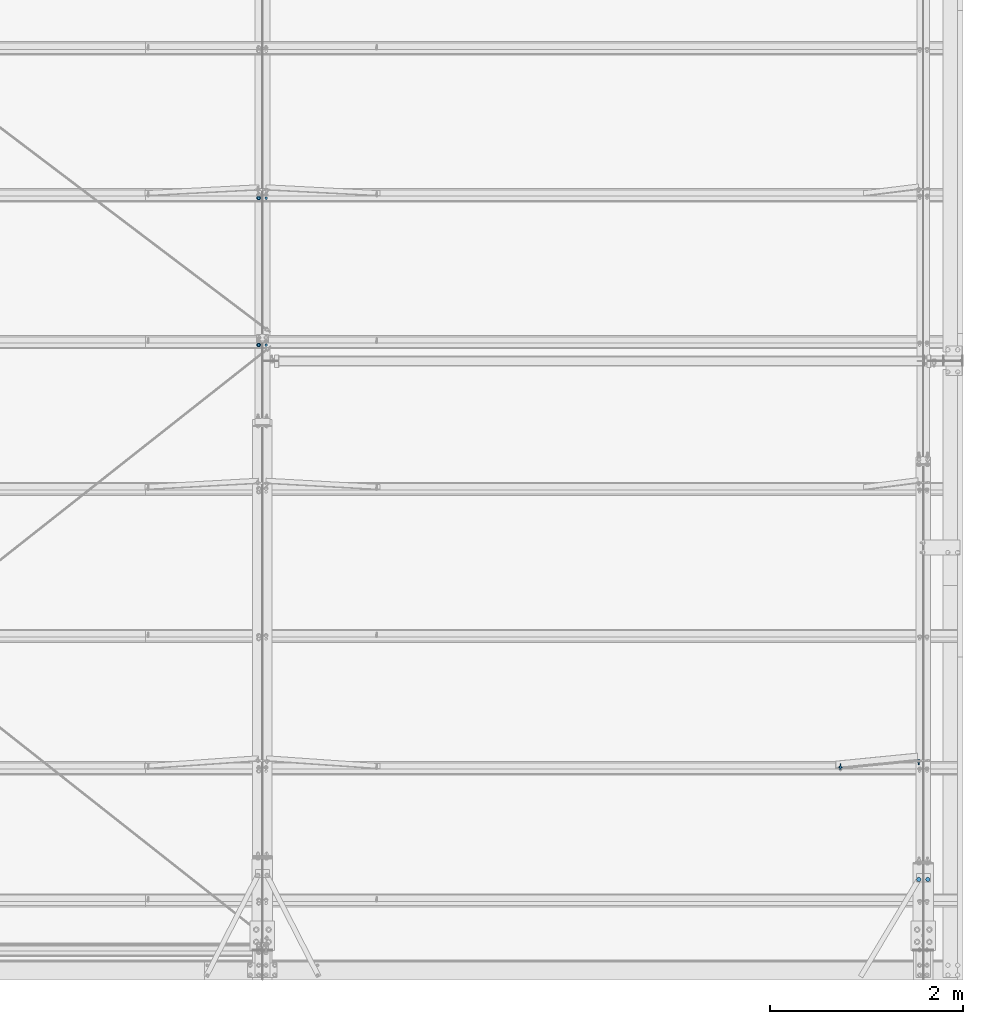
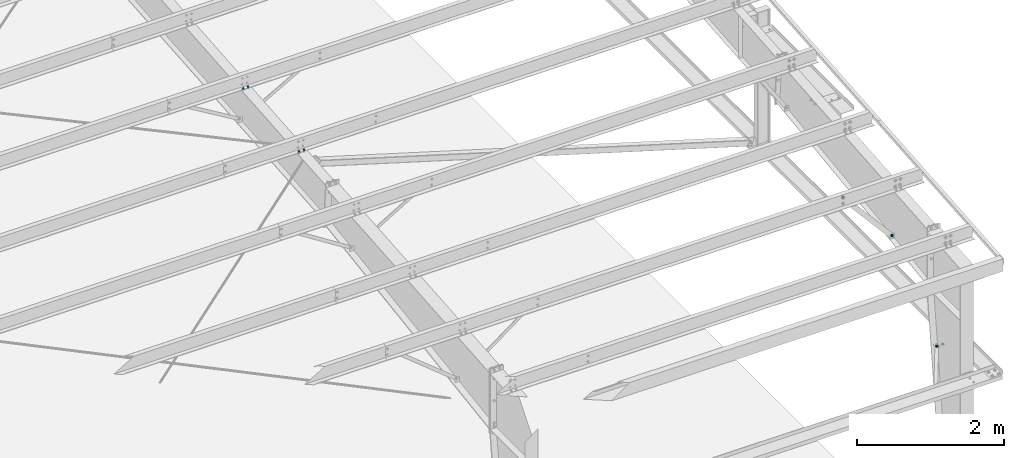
# One storey, part 168 of 185: 8 mechanical fasteners, 4 elements without a shape of their own.
"""IFC2X3 building model written with IfcOpenShell, lengths in millimetres."""

import ifcopenshell
import ifcopenshell.guid

model = None  # the IFC model being written
_history = None  # IfcOwnerHistory: only IFC2X3 demands one
_inside = {}  # id of a spatial element -> (the spatial element, [elements in it])
_under = {}  # id of a project, library or spatial element -> (it, [spatial elements below it])
_declared = {}  # id of a project -> (the project, [libraries it declares])
_typed = {}  # id of a type object -> (the type object, [elements of that type])
_made_of = {}  # id of a material, layer set ... -> (it, [elements and type objects made of it])


def new_model(schema):
    """Start an empty IFC model of exactly this schema.

    Asked for "IFC4X3", IfcOpenShell would pick the latest addendum, in which some entities
    have other attributes; the version numbers below select the first issue.
    IFC2X3 requires an IfcOwnerHistory on every rooted entity: one is made here for all.
    """
    global model, _history
    if schema == "IFC4X3":
        model = ifcopenshell.file(schema_version=(4, 3, 0, 0))
    else:
        model = ifcopenshell.file(schema=schema)
    _inside.clear()
    _under.clear()
    _declared.clear()
    _typed.clear()
    _made_of.clear()
    _history = None
    if model.schema == "IFC2X3":
        org = make("IfcOrganization", Name="unknown")
        user = make(
            "IfcPersonAndOrganization",
            ThePerson=make("IfcPerson", FamilyName="unknown"),
            TheOrganization=org,
        )
        app = make(
            "IfcApplication",
            ApplicationDeveloper=org,
            Version="unknown",
            ApplicationFullName="unknown",
            ApplicationIdentifier="unknown",
        )
        _history = make(
            "IfcOwnerHistory",
            OwningUser=user,
            OwningApplication=app,
            ChangeAction="ADDED",
            CreationDate=0,
        )
    return model


def make(cls, **values):
    """One entity of the class cls with the attributes given. An attribute that is None is left unset."""
    return model.create_entity(
        cls, **{name: value for name, value in values.items() if value is not None}
    )


def rooted(cls, **values):
    """An entity with a GlobalId (a new one), such as an element, a storey or a relation."""
    return make(cls, GlobalId=ifcopenshell.guid.new(), OwnerHistory=_history, **values)


def si_unit(unit_type, name, prefix=None):
    """IfcSIUnit, for example si_unit("LENGTHUNIT", "METRE", prefix="MILLI")."""
    return make("IfcSIUnit", UnitType=unit_type, Prefix=prefix, Name=name)


def assignment(units):
    """IfcUnitAssignment: the units of a project."""
    return None if units is None else make("IfcUnitAssignment", Units=units)


def point(xyz):
    """IfcCartesianPoint."""
    return None if xyz is None else make("IfcCartesianPoint", Coordinates=xyz)


def direction(xyz):
    """IfcDirection."""
    return None if xyz is None else make("IfcDirection", DirectionRatios=xyz)


def frame(location, z_axis=None, x_axis=None):
    """IfcAxis2Placement3D, a coordinate frame: its origin and axes. An axis left out is left unset."""
    return make(
        "IfcAxis2Placement3D",
        Location=point(location),
        Axis=direction(z_axis),
        RefDirection=direction(x_axis),
    )


def frame_2d(location, x_axis=None):
    """IfcAxis2Placement2D, a coordinate frame in the plane: its origin and x axis."""
    return make(
        "IfcAxis2Placement2D", Location=point(location), RefDirection=direction(x_axis)
    )


def origin_with_axes():
    """The frame at (0, 0, 0) with the z axis (0, 0, 1) and the x axis (1, 0, 0) written out."""
    return frame((0.0, 0.0, 0.0), z_axis=(0.0, 0.0, 1.0), x_axis=(1.0, 0.0, 0.0))


def origin_2d_with_axis():
    """The frame at (0, 0) in the plane with the x axis (1, 0) written out."""
    return frame_2d((0.0, 0.0), x_axis=(1.0, 0.0))


def place(relative_to, where):
    """IfcLocalPlacement: puts the frame where relative to a parent placement (None: the world)."""
    return make(
        "IfcLocalPlacement", PlacementRelTo=relative_to, RelativePlacement=where
    )


def context(
    kind, dimensions, precision=None, world=None, true_north=None, identifier=None
):
    """IfcGeometricRepresentationContext, for example the 3D "Model" context."""
    return make(
        "IfcGeometricRepresentationContext",
        ContextIdentifier=identifier,
        ContextType=kind,
        CoordinateSpaceDimension=dimensions,
        Precision=precision,
        WorldCoordinateSystem=world,
        TrueNorth=true_north,
    )


def subcontext(parent, identifier, kind, view, scale=None):
    """IfcGeometricRepresentationSubContext, for example "Body" below "Model"."""
    return make(
        "IfcGeometricRepresentationSubContext",
        ContextIdentifier=identifier,
        ContextType=kind,
        ParentContext=parent,
        TargetScale=scale,
        TargetView=view,
    )


def project(units=None, contexts=None):
    """IfcProject with its units and contexts."""
    return rooted(
        "IfcProject",
        Name="project",
        RepresentationContexts=contexts,
        UnitsInContext=assignment(units),
    )


def spatial(cls, under=None, at=None, **own):
    """A site, building, storey or space (cls), placed at a placement, below another one or the project."""
    s = rooted(cls, ObjectPlacement=at, **own)
    if under is not None:
        _under.setdefault(under.id(), (under, []))[1].append(s)
    return s


def polyline(points):
    """IfcPolyline through the points."""
    return make("IfcPolyline", Points=[point(p) for p in points])


def profile(cls, at=None, kind="AREA", **sizes):
    """A parametric profile (cls). Its sizes go by their IFC names, for example OverallWidth=200.0."""
    return make(cls, ProfileType=kind, Position=at, **sizes)


def circle(**sizes):
    """IfcCircleProfileDef."""
    return profile("IfcCircleProfileDef", **sizes)


def outline(outer, holes=None, kind="AREA"):
    """IfcArbitraryClosedProfileDef: a profile drawn as a closed curve; with holes, ...WithVoids."""
    if holes is None:
        return make("IfcArbitraryClosedProfileDef", ProfileType=kind, OuterCurve=outer)
    return make(
        "IfcArbitraryProfileDefWithVoids",
        ProfileType=kind,
        OuterCurve=outer,
        InnerCurves=holes,
    )


def extrude(swept, where, along, depth):
    """IfcExtrudedAreaSolid: the profile swept, set in the frame where, extruded along a direction by depth."""
    return make(
        "IfcExtrudedAreaSolid",
        SweptArea=swept,
        Position=where,
        ExtrudedDirection=direction(along),
        Depth=depth,
    )


def shape(context_of_items, identifier, shape_type, items):
    """IfcShapeRepresentation: the items that make up one representation, for example the "Body"."""
    return make(
        "IfcShapeRepresentation",
        ContextOfItems=context_of_items,
        RepresentationIdentifier=identifier,
        RepresentationType=shape_type,
        Items=items,
    )


def source(mapping_origin, context_of_items, identifier, shape_type, items):
    """IfcRepresentationMap: a shape defined once, which mapped items show again and again."""
    return make(
        "IfcRepresentationMap",
        MappingOrigin=mapping_origin,
        MappedRepresentation=shape(context_of_items, identifier, shape_type, items),
    )


def transform(
    local_origin,
    x_axis=None,
    y_axis=None,
    z_axis=None,
    scale=None,
    scale2=None,
    scale3=None,
    uniform=True,
):
    """IfcCartesianTransformationOperator3D, or its non-uniform kind. x_axis, y_axis, z_axis: its Axis1, 2, 3."""
    if uniform:
        return make(
            "IfcCartesianTransformationOperator3D",
            Axis1=direction(x_axis),
            Axis2=direction(y_axis),
            LocalOrigin=point(local_origin),
            Scale=scale,
            Axis3=direction(z_axis),
        )
    return make(
        "IfcCartesianTransformationOperator3DnonUniform",
        Axis1=direction(x_axis),
        Axis2=direction(y_axis),
        LocalOrigin=point(local_origin),
        Scale=scale,
        Axis3=direction(z_axis),
        Scale2=scale2,
        Scale3=scale3,
    )


def mapped(mapping_source, mapping_target):
    """IfcMappedItem: shows the shape of a source again, moved by a transform."""
    return make(
        "IfcMappedItem", MappingSource=mapping_source, MappingTarget=mapping_target
    )


def material(Name=None, Category=None):
    """IfcMaterial."""
    return make("IfcMaterial", Name=Name, Category=Category)


def made_of(thing, what):
    """Note that an element or type object is made of a material, layer set ...; save() writes the relation."""
    if what is not None:
        _made_of.setdefault(what.id(), (what, []))[1].append(thing)
    return thing


def type_object(cls, material=None, **own):
    """A type object (cls), such as IfcWallType, which elements share."""
    return made_of(rooted(cls, **own), material)


def element(
    cls,
    number,
    at=None,
    inside=None,
    cuts=None,
    type_object=None,
    material=None,
    context=None,
    identifier="Body",
    shape_type=None,
    held_by="IfcProductDefinitionShape",
    body=None,
    shapes=None,
    **own,
):
    """One element of the class cls, such as IfcWall. Its Tag is "e" and its number.

    at: its placement. inside: the storey or other place that contains it. cuts: it is an
    opening in that element (IfcRelVoidsElement). A single representation is given by context,
    identifier, shape_type and body (its items); several are given by shapes. held_by: the class
    of the entity that holds the representations. save() writes the other relations.
    """
    e = rooted(cls, Tag="e%d" % number, ObjectPlacement=at, **own)
    if body is not None:
        shapes = [shape(context, identifier, shape_type, body)]
    if shapes is not None:
        e.Representation = make(held_by, Representations=shapes)
    if inside is not None:
        _inside.setdefault(inside.id(), (inside, []))[1].append(e)
    if cuts is not None:
        rooted(
            "IfcRelVoidsElement", RelatingBuildingElement=cuts, RelatedOpeningElement=e
        )
    if type_object is not None:
        _typed.setdefault(type_object.id(), (type_object, []))[1].append(e)
    return made_of(e, material)


def aggregate(whole, parts):
    """IfcRelAggregates: a whole, such as a stair, and the parts it consists of."""
    return rooted("IfcRelAggregates", RelatingObject=whole, RelatedObjects=parts)


def save(model, path):
    """Write the relations noted so far, then the file.

    IfcRelAggregates (storeys below a building ...), IfcRelContainedInSpatialStructure (elements
    in a storey), IfcRelDefinesByType, IfcRelAssociatesMaterial and IfcRelDeclares: one each for
    every whole, place, type object, material and project.
    """
    for whole, parts in _under.values():
        aggregate(whole, parts)
    for where, things in _inside.values():
        rooted(
            "IfcRelContainedInSpatialStructure",
            RelatedElements=things,
            RelatingStructure=where,
        )
    for kind, things in _typed.values():
        rooted("IfcRelDefinesByType", RelatedObjects=things, RelatingType=kind)
    for what, things in _made_of.values():
        rooted("IfcRelAssociatesMaterial", RelatedObjects=things, RelatingMaterial=what)
    for by, libraries in _declared.values():
        rooted("IfcRelDeclares", RelatingContext=by, RelatedDefinitions=libraries)
    model.write(path)


model = new_model("IFC2X3")

# Units and contexts
model_context = context("Model", 3, precision=1e-05, world=origin_with_axes())
body_context = subcontext(model_context, "Body", "Model", "MODEL_VIEW")
ifc_project = project(units=[si_unit("LENGTHUNIT", "METRE", prefix="MILLI"), si_unit("AREAUNIT", "SQUARE_METRE"), si_unit("VOLUMEUNIT", "CUBIC_METRE"), si_unit("MASSUNIT", "GRAM", prefix="KILO"), si_unit("TIMEUNIT", "SECOND"), si_unit("PLANEANGLEUNIT", "RADIAN"), si_unit("SOLIDANGLEUNIT", "STERADIAN"), si_unit("THERMODYNAMICTEMPERATUREUNIT", "DEGREE_CELSIUS"), si_unit("LUMINOUSINTENSITYUNIT", "LUMEN")], contexts=[model_context])

# Site, building, storey
site_placement = place(None, origin_with_axes())
site = spatial("IfcSite", under=ifc_project, at=site_placement, Name="Undefined", CompositionType="ELEMENT")
building_placement = place(site_placement, origin_with_axes())
building = spatial("IfcBuilding", under=site, at=building_placement, Name="Undefined", CompositionType="ELEMENT")
storey_placement = place(building_placement, origin_with_axes())
storey = spatial("IfcBuildingStorey", under=building, at=storey_placement, Name="Undefined", CompositionType="ELEMENT", Elevation=0.0)

# Assembly, mechanical fastener
assembly_1_placement = place(storey_placement, origin_with_axes())
assembly_1 = element("IfcElementAssembly", 1, at=assembly_1_placement, inside=storey, Name="Steel Assembly", AssemblyPlace="NOTDEFINED", PredefinedType="RIGID_FRAME")
ifc_material = material(Name="Undefined")
discrete_accessory_type = type_object("IfcDiscreteAccessoryType", Name="Bolt assembly")
shared_shape_1 = source(origin_with_axes(), body_context, "Body", "SweptSolid", [
    extrude(circle(Radius=7.14374971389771, at=origin_2d_with_axis()), frame((0.0, 0.0, 0.0), z_axis=(0.0, 1.0, 0.0), x_axis=(1.0, 0.0, 0.0)), (0.0, 0.0, 1.0), 6.4),
    extrude(outline(polyline([(12.8316099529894, 0.0), (6.4158049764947, 11.1125001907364), (-6.4158049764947, 11.1125001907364), (-12.8316099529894, 0.0), (-6.4158049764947, -11.1125001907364), (6.4158049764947, -11.1125001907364), (12.8316099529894, 0.0)])), frame((0.0, -7.93749389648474, 0.0), z_axis=(0.0, 1.0, 0.0), x_axis=(1.0, 0.0, 0.0)), (0.0, 0.0, 1.0), 7.9),
    extrude(circle(Radius=6.34999990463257, at=origin_2d_with_axis()), frame((0.0, 0.0, 0.0), z_axis=(0.0, 1.0, 0.0), x_axis=(1.0, 0.0, 0.0)), (0.0, 0.0, 1.0), 50.8),
    extrude(circle(Radius=22.2250003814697, at=origin_2d_with_axis()), frame((0.0, 6.35000000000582, 0.0), z_axis=(0.0, 1.0, 0.0), x_axis=(1.0, 0.0, 0.0)), (0.0, 0.0, 1.0), 7.9),
    extrude(outline(polyline([(12.8316099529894, 0.0), (6.4158049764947, 11.1125001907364), (-6.4158049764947, 11.1125001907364), (-12.8316099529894, 0.0), (-6.4158049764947, -11.1125001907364), (6.4158049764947, -11.1125001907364), (12.8316099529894, 0.0)])), frame((0.0, 14.2875000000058, 0.0), z_axis=(0.0, 1.0, 0.0), x_axis=(1.0, 0.0, 0.0)), (0.0, 0.0, 1.0), 12.3),
])
mechanical_fastener_1_placement = place(assembly_1_placement, frame((43694.89, 2185.72394138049, 6227.16757842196), z_axis=(0.764786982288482, -0.0535048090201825, 0.64205771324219), x_axis=(0.644283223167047, 0.0635121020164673, -0.762145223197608)))
mechanical_fastener_1 = element("IfcMechanicalFastener", 2, at=mechanical_fastener_1_placement, type_object=discrete_accessory_type, material=ifc_material, Name="Bolt assembly", NominalDiameter=12.6999998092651, NominalLength=50.7999992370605, context=body_context, shape_type="MappedRepresentation", body=[
    mapped(shared_shape_1, transform((0.0, 0.0, 0.0))),
])

# Assembly, mechanical fasteners
assembly_2_placement = place(storey_placement, origin_with_axes())
assembly_2 = element("IfcElementAssembly", 3, at=assembly_2_placement, inside=storey, Name="Steel Assembly", AssemblyPlace="NOTDEFINED", PredefinedType="RIGID_FRAME")
shared_shape_2 = source(origin_with_axes(), body_context, "Body", "SweptSolid", [
    extrude(circle(Radius=7.14374971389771, at=origin_2d_with_axis()), frame((0.0, 0.0, 0.0), z_axis=(0.0, 1.0, 0.0), x_axis=(1.0, 0.0, 0.0)), (0.0, 0.0, 1.0), 3.5),
    extrude(circle(Radius=22.2250003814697, at=origin_2d_with_axis()), frame((0.0, 3.41629999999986, 0.0), z_axis=(0.0, 1.0, 0.0), x_axis=(1.0, 0.0, 0.0)), (0.0, 0.0, 1.0), 7.9),
    extrude(outline(polyline([(12.8316099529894, 0.0), (6.4158049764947, 11.1125001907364), (-6.4158049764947, 11.1125001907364), (-12.8316099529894, 0.0), (-6.4158049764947, -11.1125001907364), (6.4158049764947, -11.1125001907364), (12.8316099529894, 0.0)])), frame((0.0, 11.3537999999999, 0.0), z_axis=(0.0, 1.0, 0.0), x_axis=(1.0, 0.0, 0.0)), (0.0, 0.0, 1.0), 12.3),
])
mechanical_fastener_2_placement = place(assembly_2_placement, frame((44598.43125, 1040.14379748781, 4165.23696424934), z_axis=(0.0, 1.0, 0.0), x_axis=(-1.0, 0.0, 0.0)))
mechanical_fastener_2 = element("IfcMechanicalFastener", 4, at=mechanical_fastener_2_placement, type_object=discrete_accessory_type, material=ifc_material, Name="Bolt assembly", NominalDiameter=12.6999998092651, NominalLength=50.7999992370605, context=body_context, shape_type="MappedRepresentation", body=[
    mapped(shared_shape_2, transform((0.0, 0.0, 0.0))),
])
shared_shape_3 = source(origin_with_axes(), body_context, "Body", "SweptSolid", [
    extrude(circle(Radius=7.14374971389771, at=origin_2d_with_axis()), frame((0.0, -1.4900000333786, 0.0), z_axis=(0.0, 1.0, 0.0), x_axis=(1.0, 0.0, 0.0)), (0.0, 0.0, 1.0), 1.6),
    extrude(circle(Radius=7.14374971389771, at=origin_2d_with_axis()), frame((0.0, 1.48749999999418, 0.0), z_axis=(0.0, 1.0, 0.0), x_axis=(1.0, 0.0, 0.0)), (0.0, 0.0, 1.0), 3.5),
    extrude(outline(polyline([(10.9985221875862, 0.0), (5.4992610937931, 9.52499961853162), (-5.4992610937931, 9.52499961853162), (-10.9985221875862, 0.0), (-5.4992610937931, -9.52499961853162), (5.4992610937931, -9.52499961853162), (10.9985221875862, 0.0)])), frame((0.0, -15.0837496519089, 0.0), z_axis=(0.0, 1.0, 0.0), x_axis=(1.0, 0.0, 0.0)), (0.0, 0.0, 1.0), 9.5),
    extrude(circle(Radius=6.34999990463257, at=origin_2d_with_axis()), frame((0.0, -5.5587500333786, 0.0), z_axis=(0.0, 1.0, 0.0), x_axis=(1.0, 0.0, 0.0)), (0.0, 0.0, 1.0), 38.1),
    extrude(circle(Radius=13.4937496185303, at=origin_2d_with_axis()), frame((0.0, -5.5587500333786, 0.0), z_axis=(0.0, 1.0, 0.0), x_axis=(1.0, 0.0, 0.0)), (0.0, 0.0, 1.0), 4.0),
    extrude(circle(Radius=22.2250003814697, at=origin_2d_with_axis()), frame((0.0, 5.00379999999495, 0.0), z_axis=(0.0, 1.0, 0.0), x_axis=(1.0, 0.0, 0.0)), (0.0, 0.0, 1.0), 7.9),
    extrude(outline(polyline([(12.8316099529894, 0.0), (6.4158049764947, 11.1125001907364), (-6.4158049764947, 11.1125001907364), (-12.8316099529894, 0.0), (-6.4158049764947, -11.1125001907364), (6.4158049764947, -11.1125001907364), (12.8316099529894, 0.0)])), frame((0.0, 12.941299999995, 0.0), z_axis=(0.0, 1.0, 0.0), x_axis=(1.0, 0.0, 0.0)), (0.0, 0.0, 1.0), 12.3),
])
mechanical_fastener_3_placement = place(assembly_2_placement, frame((44504.76875, 1040.14379748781, 4163.64946424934), z_axis=(-0.858185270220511, 0.513340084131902, 0.0), x_axis=(-0.513340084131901, -0.858185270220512, 0.0)))
mechanical_fastener_3 = element("IfcMechanicalFastener", 5, at=mechanical_fastener_3_placement, type_object=discrete_accessory_type, material=ifc_material, Name="Bolt assembly", NominalDiameter=12.6999998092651, NominalLength=38.0999984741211, context=body_context, shape_type="MappedRepresentation", body=[
    mapped(shared_shape_3, transform((0.0, 0.0, 0.0))),
])
aggregate(assembly_2, [mechanical_fastener_3, mechanical_fastener_2])

# Mechanical fastener
shared_shape_4 = source(origin_with_axes(), body_context, "Body", "SweptSolid", [
    extrude(circle(Radius=7.14374971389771, at=origin_2d_with_axis()), frame((0.0, -6.34999953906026, 0.0), z_axis=(0.0, 1.0, 0.0), x_axis=(1.0, 0.0, 0.0)), (0.0, 0.0, 1.0), 6.4),
    extrude(outline(polyline([(12.8316099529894, 0.0), (6.4158049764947, 11.1125001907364), (-6.4158049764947, 11.1125001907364), (-12.8316099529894, 0.0), (-6.4158049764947, -11.1125001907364), (6.4158049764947, -11.1125001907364), (12.8316099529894, 0.0)])), frame((0.0, -14.2874996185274, 0.0), z_axis=(0.0, 1.0, 0.0), x_axis=(1.0, 0.0, 0.0)), (0.0, 0.0, 1.0), 7.9),
    extrude(circle(Radius=6.34999990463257, at=origin_2d_with_axis()), frame((0.0, -6.34999953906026, 0.0), z_axis=(0.0, 1.0, 0.0), x_axis=(1.0, 0.0, 0.0)), (0.0, 0.0, 1.0), 50.8),
    extrude(circle(Radius=22.2250003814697, at=origin_2d_with_axis()), frame((0.0, 0.0, 0.0), z_axis=(0.0, 1.0, 0.0), x_axis=(1.0, 0.0, 0.0)), (0.0, 0.0, 1.0), 7.9),
    extrude(outline(polyline([(12.8316099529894, 0.0), (6.4158049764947, 11.1125001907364), (-6.4158049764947, 11.1125001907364), (-12.8316099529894, 0.0), (-6.4158049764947, -11.1125001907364), (6.4158049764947, -11.1125001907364), (12.8316099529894, 0.0)])), frame((0.0, 7.93750000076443, 0.0), z_axis=(0.0, 1.0, 0.0), x_axis=(1.0, 0.0, 0.0)), (0.0, 0.0, 1.0), 12.3),
])
mechanical_fastener_4_placement = place(assembly_1_placement, frame((44504.7687500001, 2265.56010637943, 5269.13359840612), z_axis=(0.764786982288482, -0.0535048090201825, 0.64205771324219), x_axis=(-0.644283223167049, -0.0635121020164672, 0.762145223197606)))
mechanical_fastener_4 = element("IfcMechanicalFastener", 6, at=mechanical_fastener_4_placement, type_object=discrete_accessory_type, material=ifc_material, Name="Bolt assembly", NominalDiameter=12.6999998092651, NominalLength=50.7999992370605, context=body_context, shape_type="MappedRepresentation", body=[
    mapped(shared_shape_4, transform((0.0, 0.0, 0.0))),
])

aggregate(assembly_1, [mechanical_fastener_1, mechanical_fastener_4])

# Assembly, mechanical fasteners
assembly_3_placement = place(storey_placement, origin_with_axes())
assembly_3 = element("IfcElementAssembly", 7, at=assembly_3_placement, inside=storey, Name="Steel Assembly", AssemblyPlace="NOTDEFINED", PredefinedType="RIGID_FRAME")
shared_shape_5 = source(origin_with_axes(), body_context, "Body", "SweptSolid", [
    extrude(circle(Radius=7.14374971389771, at=origin_2d_with_axis()), frame((0.0, -0.0238014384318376, 0.0), z_axis=(0.0, 1.0, 0.0), x_axis=(1.0, 0.0, 0.0)), (0.0, 0.0, 1.0), 8.0),
    extrude(circle(Radius=7.14374971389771, at=origin_2d_with_axis()), frame((0.0, -3.08000006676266, 0.0), z_axis=(0.0, 1.0, 0.0), x_axis=(1.0, 0.0, 0.0)), (0.0, 0.0, 1.0), 3.2),
    extrude(circle(Radius=7.14374971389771, at=origin_2d_with_axis()), frame((0.0, -3.18000030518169, 0.0), z_axis=(0.0, 1.0, 0.0), x_axis=(1.0, 0.0, 0.0)), (0.0, 0.0, 1.0), 3.2),
    extrude(outline(polyline([(12.8316099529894, 0.0), (6.4158049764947, 11.1125001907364), (-6.4158049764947, 11.1125001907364), (-12.8316099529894, 0.0), (-6.4158049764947, -11.1125001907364), (6.4158049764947, -11.1125001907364), (12.8316099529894, 0.0)])), frame((0.0, -15.08625183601, 0.0), z_axis=(0.0, 1.0, 0.0), x_axis=(1.0, 0.0, 0.0)), (0.0, 0.0, 1.0), 7.9),
    extrude(circle(Radius=6.34999990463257, at=origin_2d_with_axis()), frame((0.0, -7.14875006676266, 0.0), z_axis=(0.0, 1.0, 0.0), x_axis=(1.0, 0.0, 0.0)), (0.0, 0.0, 1.0), 50.8),
    extrude(circle(Radius=13.4937496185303, at=origin_2d_with_axis()), frame((0.0, -7.14875006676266, 0.0), z_axis=(0.0, 1.0, 0.0), x_axis=(1.0, 0.0, 0.0)), (0.0, 0.0, 1.0), 4.0),
    extrude(circle(Radius=22.2250003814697, at=origin_2d_with_axis()), frame((0.0, 7.95019856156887, 0.0), z_axis=(0.0, 1.0, 0.0), x_axis=(1.0, 0.0, 0.0)), (0.0, 0.0, 1.0), 7.9),
    extrude(outline(polyline([(12.8316099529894, 0.0), (6.4158049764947, 11.1125001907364), (-6.4158049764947, 11.1125001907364), (-12.8316099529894, 0.0), (-6.4158049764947, -11.1125001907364), (6.4158049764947, -11.1125001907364), (12.8316099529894, 0.0)])), frame((0.0, 15.8876985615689, 0.0), z_axis=(0.0, 1.0, 0.0), x_axis=(1.0, 0.0, 0.0)), (0.0, 0.0, 1.0), 12.3),
])
mechanical_fastener_5_placement = place(assembly_3_placement, frame((37680.9, 6564.7453136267, 6439.15777571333), z_axis=(1.0, 0.0, 0.0), x_axis=(0.0, -0.996545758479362, -0.0830454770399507)))
mechanical_fastener_5 = element("IfcMechanicalFastener", 8, at=mechanical_fastener_5_placement, type_object=discrete_accessory_type, material=ifc_material, Name="Bolt assembly", NominalDiameter=12.6999998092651, NominalLength=50.7999992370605, context=body_context, shape_type="MappedRepresentation", body=[
    mapped(shared_shape_5, transform((0.0, 0.0, 0.0))),
])
shared_shape_6 = source(origin_with_axes(), body_context, "Body", "SweptSolid", [
    extrude(circle(Radius=7.14374971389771, at=origin_2d_with_axis()), frame((0.0, -0.0238014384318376, 0.0), z_axis=(0.0, 1.0, 0.0), x_axis=(1.0, 0.0, 0.0)), (0.0, 0.0, 1.0), 8.0),
    extrude(circle(Radius=7.14374971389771, at=origin_2d_with_axis()), frame((0.0, -3.08000006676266, 0.0), z_axis=(0.0, 1.0, 0.0), x_axis=(1.0, 0.0, 0.0)), (0.0, 0.0, 1.0), 3.2),
    extrude(circle(Radius=7.14374971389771, at=origin_2d_with_axis()), frame((0.0, -3.18000030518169, 0.0), z_axis=(0.0, 1.0, 0.0), x_axis=(1.0, 0.0, 0.0)), (0.0, 0.0, 1.0), 3.2),
    extrude(outline(polyline([(12.8316099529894, 0.0), (6.4158049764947, 11.1125001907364), (-6.4158049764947, 11.1125001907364), (-12.8316099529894, 0.0), (-6.4158049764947, -11.1125001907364), (6.4158049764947, -11.1125001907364), (12.8316099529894, 0.0)])), frame((0.0, -15.08625183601, 0.0), z_axis=(0.0, 1.0, 0.0), x_axis=(1.0, 0.0, 0.0)), (0.0, 0.0, 1.0), 7.9),
    extrude(circle(Radius=6.34999990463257, at=origin_2d_with_axis()), frame((0.0, -7.14875006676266, 0.0), z_axis=(0.0, 1.0, 0.0), x_axis=(1.0, 0.0, 0.0)), (0.0, 0.0, 1.0), 50.8),
    extrude(circle(Radius=13.4937496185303, at=origin_2d_with_axis()), frame((0.0, -7.14875006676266, 0.0), z_axis=(0.0, 1.0, 0.0), x_axis=(1.0, 0.0, 0.0)), (0.0, 0.0, 1.0), 4.0),
    extrude(outline(polyline([(12.8316099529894, 0.0), (6.4158049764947, 11.1125001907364), (-6.4158049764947, 11.1125001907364), (-12.8316099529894, 0.0), (-6.4158049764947, -11.1125001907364), (6.4158049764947, -11.1125001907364), (12.8316099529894, 0.0)])), frame((0.0, 7.95019856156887, 0.0), z_axis=(0.0, 1.0, 0.0), x_axis=(1.0, 0.0, 0.0)), (0.0, 0.0, 1.0), 12.3),
])
mechanical_fastener_6_placement = place(assembly_3_placement, frame((37757.1, 6564.7453136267, 6439.15777571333), z_axis=(1.0, 0.0, 0.0), x_axis=(0.0, -0.996545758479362, -0.0830454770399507)))
mechanical_fastener_6 = element("IfcMechanicalFastener", 9, at=mechanical_fastener_6_placement, type_object=discrete_accessory_type, material=ifc_material, Name="Bolt assembly", NominalDiameter=12.6999998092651, NominalLength=50.7999992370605, context=body_context, shape_type="MappedRepresentation", body=[
    mapped(shared_shape_6, transform((0.0, 0.0, 0.0))),
])
aggregate(assembly_3, [mechanical_fastener_5, mechanical_fastener_6])

assembly_4_placement = place(storey_placement, origin_with_axes())
assembly_4 = element("IfcElementAssembly", 10, at=assembly_4_placement, inside=storey, Name="Steel Assembly", AssemblyPlace="NOTDEFINED", PredefinedType="RIGID_FRAME")
shared_shape_7 = source(origin_with_axes(), body_context, "Body", "SweptSolid", [
    extrude(circle(Radius=7.14374971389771, at=origin_2d_with_axis()), frame((0.0, -0.0238014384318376, 0.0), z_axis=(0.0, 1.0, 0.0), x_axis=(1.0, 0.0, 0.0)), (0.0, 0.0, 1.0), 8.0),
    extrude(circle(Radius=7.14374971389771, at=origin_2d_with_axis()), frame((0.0, -3.08000006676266, 0.0), z_axis=(0.0, 1.0, 0.0), x_axis=(1.0, 0.0, 0.0)), (0.0, 0.0, 1.0), 3.2),
    extrude(circle(Radius=7.14374971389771, at=origin_2d_with_axis()), frame((0.0, -3.18000030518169, 0.0), z_axis=(0.0, 1.0, 0.0), x_axis=(1.0, 0.0, 0.0)), (0.0, 0.0, 1.0), 3.2),
    extrude(outline(polyline([(10.9985221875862, 0.0), (5.4992610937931, 9.52499961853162), (-5.4992610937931, 9.52499961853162), (-10.9985221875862, 0.0), (-5.4992610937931, -9.52499961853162), (5.4992610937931, -9.52499961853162), (10.9985221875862, 0.0)])), frame((0.0, -16.6737496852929, 0.0), z_axis=(0.0, 1.0, 0.0), x_axis=(1.0, 0.0, 0.0)), (0.0, 0.0, 1.0), 9.5),
    extrude(circle(Radius=6.34999990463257, at=origin_2d_with_axis()), frame((0.0, -7.14875006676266, 0.0), z_axis=(0.0, 1.0, 0.0), x_axis=(1.0, 0.0, 0.0)), (0.0, 0.0, 1.0), 38.1),
    extrude(circle(Radius=13.4937496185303, at=origin_2d_with_axis()), frame((0.0, -7.14875006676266, 0.0), z_axis=(0.0, 1.0, 0.0), x_axis=(1.0, 0.0, 0.0)), (0.0, 0.0, 1.0), 4.0),
    extrude(circle(Radius=22.2250003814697, at=origin_2d_with_axis()), frame((0.0, 7.95019856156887, 0.0), z_axis=(0.0, 1.0, 0.0), x_axis=(1.0, 0.0, 0.0)), (0.0, 0.0, 1.0), 7.9),
    extrude(outline(polyline([(12.8316099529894, 0.0), (6.4158049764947, 11.1125001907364), (-6.4158049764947, 11.1125001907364), (-12.8316099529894, 0.0), (-6.4158049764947, -11.1125001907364), (6.4158049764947, -11.1125001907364), (12.8316099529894, 0.0)])), frame((0.0, 15.8876985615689, 0.0), z_axis=(0.0, 1.0, 0.0), x_axis=(1.0, 0.0, 0.0)), (0.0, 0.0, 1.0), 12.3),
])
mechanical_fastener_7_placement = place(assembly_4_placement, frame((37680.9, 8083.48104764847, 6565.71908714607), z_axis=(1.0, 0.0, 0.0), x_axis=(0.0, -0.996545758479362, -0.0830454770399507)))
mechanical_fastener_7 = element("IfcMechanicalFastener", 11, at=mechanical_fastener_7_placement, type_object=discrete_accessory_type, material=ifc_material, Name="Bolt assembly", NominalDiameter=12.6999998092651, NominalLength=38.0999984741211, context=body_context, shape_type="MappedRepresentation", body=[
    mapped(shared_shape_7, transform((0.0, 0.0, 0.0))),
])
shared_shape_8 = source(origin_with_axes(), body_context, "Body", "SweptSolid", [
    extrude(circle(Radius=7.14374971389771, at=origin_2d_with_axis()), frame((0.0, -0.0238014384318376, 0.0), z_axis=(0.0, 1.0, 0.0), x_axis=(1.0, 0.0, 0.0)), (0.0, 0.0, 1.0), 8.0),
    extrude(circle(Radius=7.14374971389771, at=origin_2d_with_axis()), frame((0.0, -3.08000006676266, 0.0), z_axis=(0.0, 1.0, 0.0), x_axis=(1.0, 0.0, 0.0)), (0.0, 0.0, 1.0), 3.2),
    extrude(circle(Radius=7.14374971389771, at=origin_2d_with_axis()), frame((0.0, -3.18000030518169, 0.0), z_axis=(0.0, 1.0, 0.0), x_axis=(1.0, 0.0, 0.0)), (0.0, 0.0, 1.0), 3.2),
    extrude(outline(polyline([(10.9985221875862, 0.0), (5.4992610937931, 9.52499961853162), (-5.4992610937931, 9.52499961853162), (-10.9985221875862, 0.0), (-5.4992610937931, -9.52499961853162), (5.4992610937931, -9.52499961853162), (10.9985221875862, 0.0)])), frame((0.0, -16.6737496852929, 0.0), z_axis=(0.0, 1.0, 0.0), x_axis=(1.0, 0.0, 0.0)), (0.0, 0.0, 1.0), 9.5),
    extrude(circle(Radius=6.34999990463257, at=origin_2d_with_axis()), frame((0.0, -7.14875006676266, 0.0), z_axis=(0.0, 1.0, 0.0), x_axis=(1.0, 0.0, 0.0)), (0.0, 0.0, 1.0), 38.1),
    extrude(circle(Radius=13.4937496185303, at=origin_2d_with_axis()), frame((0.0, -7.14875006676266, 0.0), z_axis=(0.0, 1.0, 0.0), x_axis=(1.0, 0.0, 0.0)), (0.0, 0.0, 1.0), 4.0),
    extrude(outline(polyline([(12.8316099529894, 0.0), (6.4158049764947, 11.1125001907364), (-6.4158049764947, 11.1125001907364), (-12.8316099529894, 0.0), (-6.4158049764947, -11.1125001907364), (6.4158049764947, -11.1125001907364), (12.8316099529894, 0.0)])), frame((0.0, 7.95019856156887, 0.0), z_axis=(0.0, 1.0, 0.0), x_axis=(1.0, 0.0, 0.0)), (0.0, 0.0, 1.0), 12.3),
])
mechanical_fastener_8_placement = place(assembly_4_placement, frame((37757.1, 8083.48104764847, 6565.71908714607), z_axis=(1.0, 0.0, 0.0), x_axis=(0.0, -0.996545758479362, -0.0830454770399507)))
mechanical_fastener_8 = element("IfcMechanicalFastener", 12, at=mechanical_fastener_8_placement, type_object=discrete_accessory_type, material=ifc_material, Name="Bolt assembly", NominalDiameter=12.6999998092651, NominalLength=38.0999984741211, context=body_context, shape_type="MappedRepresentation", body=[
    mapped(shared_shape_8, transform((0.0, 0.0, 0.0))),
])
aggregate(assembly_4, [mechanical_fastener_7, mechanical_fastener_8])

save(model, "model.ifc")
